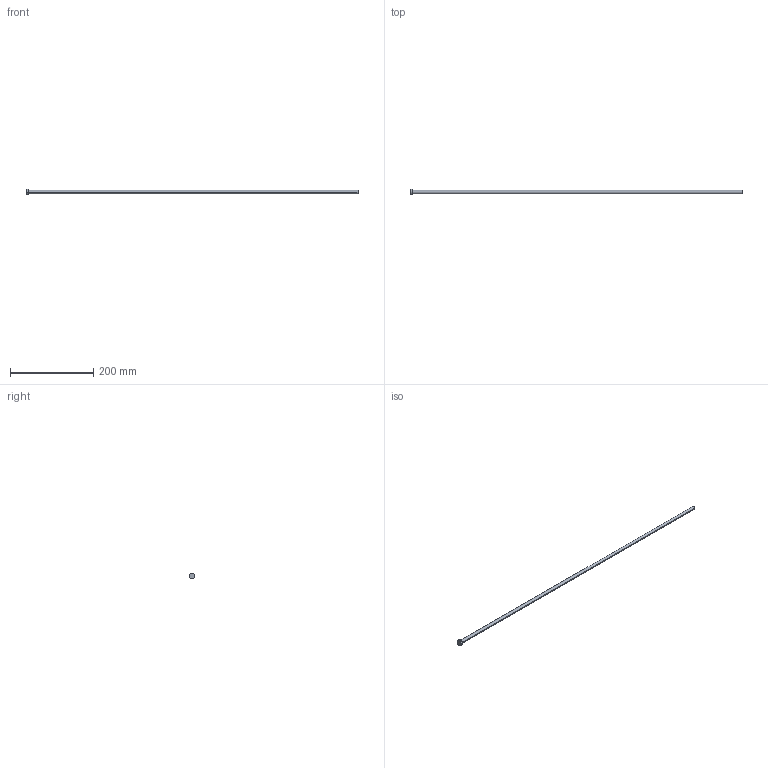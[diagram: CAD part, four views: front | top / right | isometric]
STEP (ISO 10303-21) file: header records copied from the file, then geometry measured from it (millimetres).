
FILE_DESCRIPTION (( 'STEP AP214' ), '1' );
FILE_NAME ('A-8x800.STEP', '2020-05-29T15:55:13', ( 'August' ), ( '' ), 'SwSTEP 2.0', 'SolidWorks 2018', '' );
FILE_SCHEMA (( 'AUTOMOTIVE_DESIGN' ));
Length unit declared in the file: millimetre
Products named in the file (1): A-8x800
Bounding box: 800 x 14 x 14 mm (x, y, z)
Volume: 40732.1 mm3; surface area: 20503 mm2
Topology: 1 solids, 1 shells, 9 faces, 16 edges, 10 vertices
Faces by surface type: cylinder 4, plane 3, torus 2
Entity records: 260 total; most frequent: DIRECTION 48, CARTESIAN_POINT 36, ORIENTED_EDGE 32, AXIS2_PLACEMENT_3D 22, EDGE_CURVE 16, CIRCLE 12, EDGE_LOOP 10, VERTEX_POINT 10
